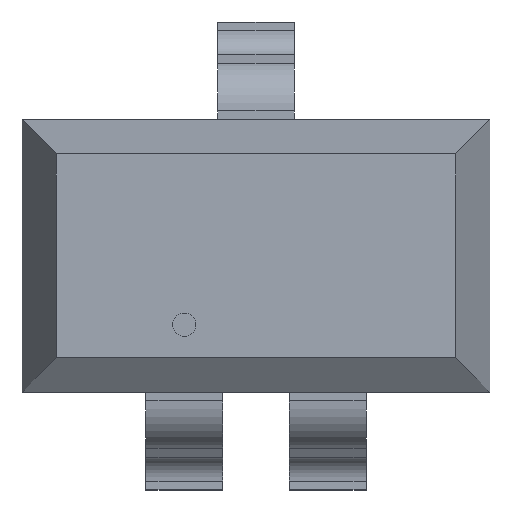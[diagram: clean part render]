
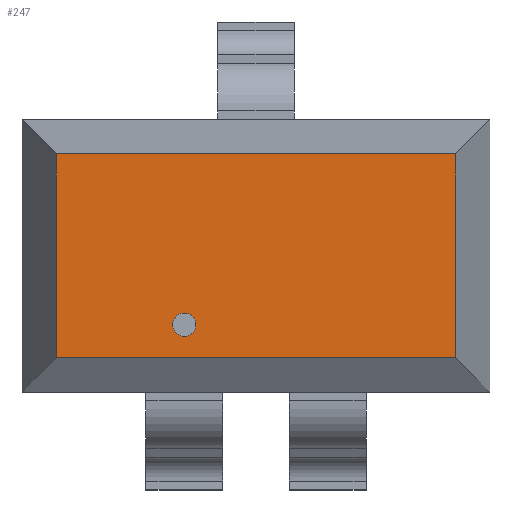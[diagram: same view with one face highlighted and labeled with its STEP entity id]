
A CAD part, top view. The second image highlights one B-rep face of the part: STEP entity #247.
In plain terms, the highlighted planar face has unit normal (0, 0, 1).
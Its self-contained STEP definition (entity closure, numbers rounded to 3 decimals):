
#247=ADVANCED_FACE('',(#253),#248,.T.);
#248=PLANE('',#249);
#249=AXIS2_PLACEMENT_3D('',#250,#251,#252);
#250=CARTESIAN_POINT('',(-1.321,-0.673,1.499));
#251=DIRECTION('',(0.0,0.0,1.0));
#252=DIRECTION('',(0.,1.,0.));
#253=FACE_OUTER_BOUND('',#254,.T.);
#254=EDGE_LOOP('',(#255,#265,#275,#285));
#258=CARTESIAN_POINT('',(1.321,-0.673,1.499));
#257=VERTEX_POINT('',#258);
#260=CARTESIAN_POINT('',(-1.321,-0.673,1.499));
#259=VERTEX_POINT('',#260);
#256=EDGE_CURVE('',#257,#259,#261,.T.);
#261=LINE('',#258,#263);
#263=VECTOR('',#264,2.642);
#264=DIRECTION('',(-1.0,0.0,0.0));
#255=ORIENTED_EDGE('',*,*,#256,.F.);
#268=CARTESIAN_POINT('',(1.321,0.673,1.499));
#267=VERTEX_POINT('',#268);
#266=EDGE_CURVE('',#267,#257,#271,.T.);
#271=LINE('',#268,#273);
#273=VECTOR('',#274,1.346);
#274=DIRECTION('',(0.0,-1.0,0.0));
#265=ORIENTED_EDGE('',*,*,#266,.F.);
#278=CARTESIAN_POINT('',(-1.321,0.673,1.499));
#277=VERTEX_POINT('',#278);
#276=EDGE_CURVE('',#277,#267,#281,.T.);
#281=LINE('',#278,#283);
#283=VECTOR('',#284,2.642);
#284=DIRECTION('',(1.0,0.0,0.0));
#275=ORIENTED_EDGE('',*,*,#276,.F.);
#286=EDGE_CURVE('',#259,#277,#291,.T.);
#291=LINE('',#260,#293);
#293=VECTOR('',#294,1.346);
#294=DIRECTION('',(0.0,1.0,0.0));
#285=ORIENTED_EDGE('',*,*,#286,.F.);
